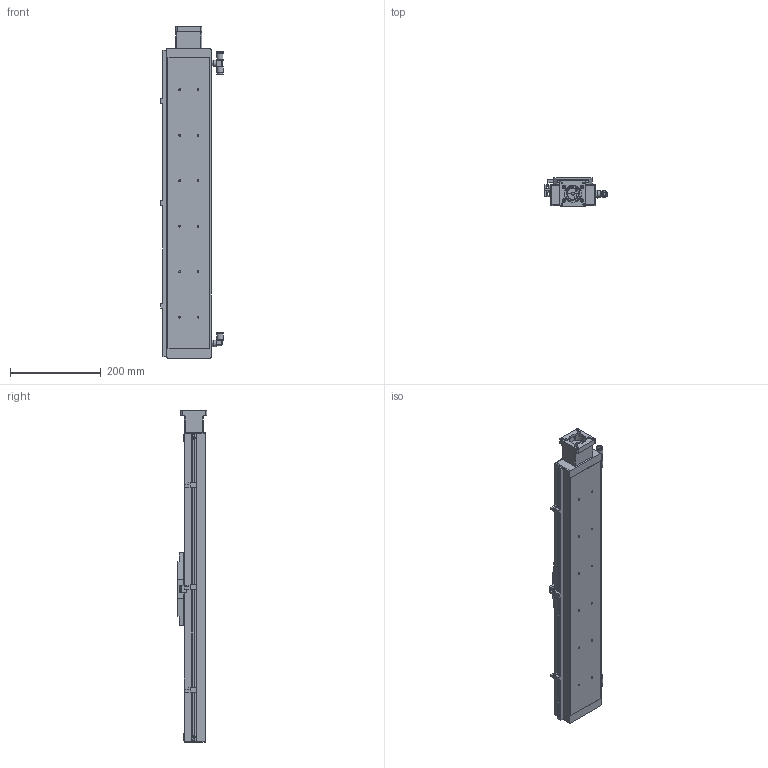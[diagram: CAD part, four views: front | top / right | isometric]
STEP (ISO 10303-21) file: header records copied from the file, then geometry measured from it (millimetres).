
FILE_DESCRIPTION((''),'2;1');
FILE_NAME('E:\libraries\UIA actuator library 2016\Clean room actuator\UIA098CR12DC\UIA098CR12 stp file 05May16\UIA098CR12DC-450-R16_ _-M23-P13-C10-S.stp','2016-05-09T14:54:53',('h029'),(''),'Autodesk Inventor 11','Autodesk Inventor 11','');
FILE_SCHEMA(('AUTOMOTIVE_DESIGN { 1 0 10303 214 1 1 1 1 }'));
Length unit declared in the file: millimetre
Products named in the file (12): UIA098CR12DC-450; body, UIA098CR12DC-450; carriage, UIA098CR12DC; Sensor Switch, UIA098CR12DC; SOH-25C; SOH-25C-2; SOH-25C-3; SOH-25C-1; Motor mount; Sensor Rail, UIA098CR12DC-450_MIR; vacuum port 1, UIA098CR12DC_MIR; vacuum port 2, UIA098CR12DC_MIR
Assembly tree (11 placements, depth 3):
  UIA098CR12DC-450
    body, UIA098CR12DC-450
    carriage, UIA098CR12DC
    Sensor Switch, UIA098CR12DC
    SOH-25C
      SOH-25C-2
      SOH-25C-3
      SOH-25C-1
    Motor mount
    Sensor Rail, UIA098CR12DC-450_MIR
    vacuum port 1, UIA098CR12DC_MIR
    vacuum port 2, UIA098CR12DC_MIR
Bounding box: 138.4 x 65.5 x 730 mm (x, y, z)
Volume: 3296785.7 mm3; surface area: 328980.1 mm2
Topology: 10 solids, 10 shells, 668 faces, 1737 edges, 1132 vertices
Faces by surface type: plane 295, bspline 284, cylinder 86, cone 3
Full cylindrical faces by diameter (mm): 3 x3, 5.6 x8, 8 x4, 9 x2, 10 x1, 13 x1, 15 x2, 18 x1, 25.5 x3, 37 x1, 38.1 x1
Entity records: 21659 total; most frequent: CARTESIAN_POINT 6364, ORIENTED_EDGE 3104, DIRECTION 2729, EDGE_CURVE 1552, VECTOR 1123, LINE 1123, VERTEX_POINT 1074, EDGE_LOOP 922
